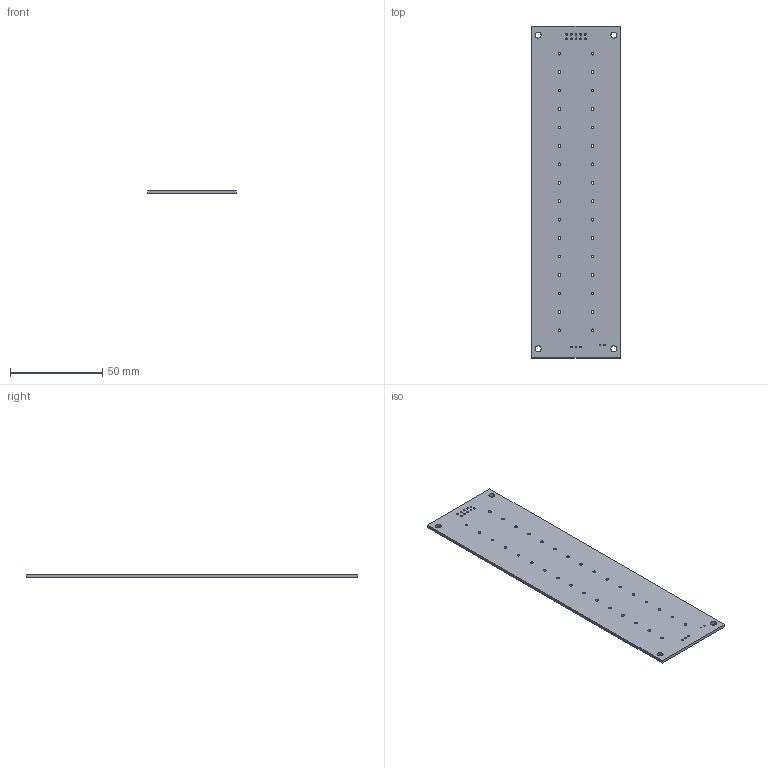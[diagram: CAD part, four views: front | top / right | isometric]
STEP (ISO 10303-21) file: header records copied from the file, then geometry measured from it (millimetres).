
FILE_DESCRIPTION(('Open CASCADE Model'),'2;1');
FILE_NAME('Open CASCADE Shape Model','2026-10-05T11:00:30',('Author'),( 'Open CASCADE'),'Open CASCADE STEP processor 7.9','Open CASCADE 7.9' ,'Unknown');
FILE_SCHEMA(('AUTOMOTIVE_DESIGN { 1 0 10303 214 1 1 1 1 }'));
Length unit declared in the file: millimetre
Products named in the file (1): Open CASCADE STEP translator 7.9 3
Bounding box: 48 x 180 x 1.6 mm (x, y, z)
Volume: 13664.1 mm3; surface area: 18188.7 mm2
Topology: 1 solids, 1 shells, 57 faces, 165 edges, 110 vertices
Faces by surface type: cylinder 51, plane 6
Full cylindrical faces by diameter (mm): 0.8 x2, 1 x13, 1.5 x32, 3.2 x4
Entity records: 4606 total; most frequent: CARTESIAN_POINT 1275, DIRECTION 611, ORIENTED_EDGE 330, PCURVE 330, DEFINITIONAL_REPRESENTATION 330, LINE 291, VECTOR 291, EDGE_CURVE 165
